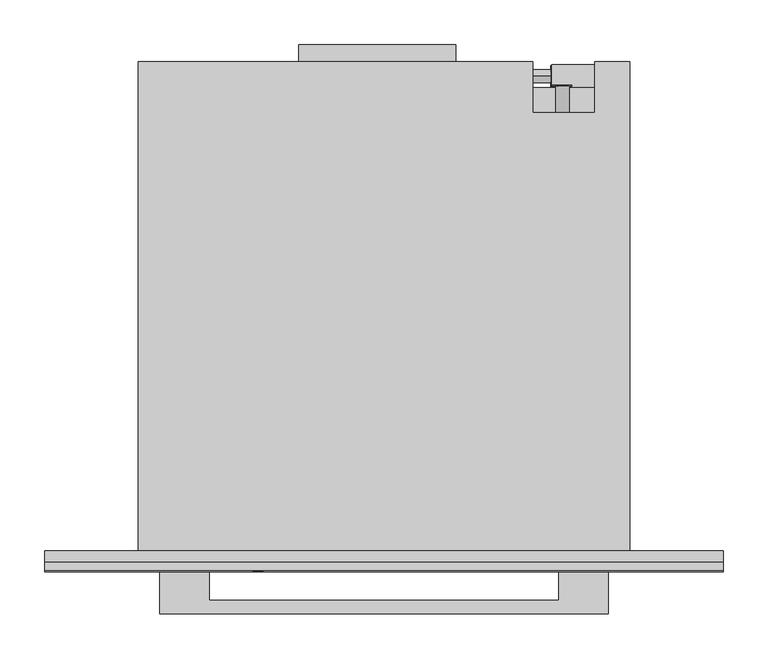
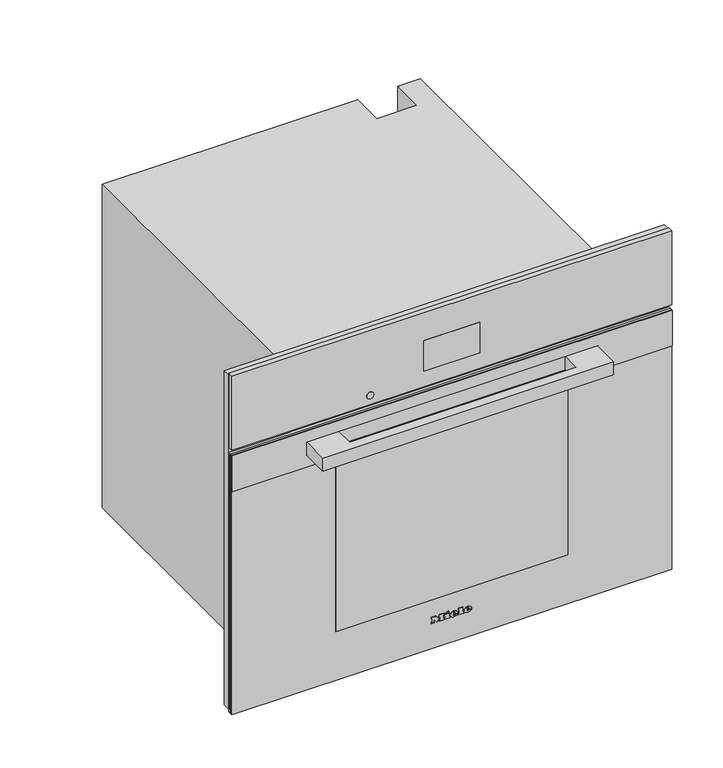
"""IFC4 building model written with IfcOpenShell, lengths in millimetres: proxy geometry, 11876450_USA_DGC7685_EDST-CLST : 23768543_USA_11876450_DGC7685_EDST-CLST."""

from ifc_helpers import new_model, si_unit, point, frame, frame_2d, origin, place, context, project, spatial, polyline, circle_curve, ellipse_curve, trimmed, segment, composite_curve, outline, extrude, faceted_brep, source, transform, mapped, element, save
from ifc_brep_helpers import plane_surface, cylinder_surface, revolved_surface, extruded_surface, advanced_brep


def specialty_equipment_a1b92951(model_context):
    return source(origin(), model_context, "Body", "SolidModel", [
        faceted_brep([(378.5, -13.0, 617.0), (-378.5, -13.0, 617.0), (-378.5, -13.0, 9.0), (-272.5, -13.0, 9.0), (-272.5, -13.0, 485.0), (272.5, -13.0, 485.0), (272.5, -13.0, 9.0), (378.5, -13.0, 9.0), (378.5, 0.0, 617.0), (378.5, 0.0, 9.0), (-378.5, 0.0, 9.0), (-378.5, 0.0, 617.0), (231.0, 0.0, 61.0), (231.0, 0.0, 411.0), (-231.0, 0.0, 411.0), (-231.0, 0.0, 61.0), (272.5, -5.0, 9.0), (-272.5, -5.0, 9.0), (-272.5, -5.0, 485.0), (272.5, -5.0, 485.0), (231.0, -5.0, 411.0), (231.0, -5.0, 61.0), (-231.0, -5.0, 61.0), (-231.0, -5.0, 411.0)], [[[0, 1, 2, 3, 4, 5, 6, 7]], [[8, 9, 10, 11], [12, 13, 14, 15]], [[1, 0, 8, 11]], [[2, 1, 11, 10]], [[10, 9, 7, 6, 16, 17, 3, 2]], [[0, 7, 9, 8]], [[18, 19, 5, 4]], [[18, 4, 3, 17]], [[5, 19, 16, 6]], [[19, 18, 17, 16], [20, 21, 22, 23]], [[20, 13, 12, 21]], [[21, 12, 15, 22]], [[22, 15, 14, 23]], [[13, 20, 23, 14]]]),
        extrude(outline(polyline([(-95.0, 565.0), (80.0, 565.0), (80.0, 546.0), (-95.0, 546.0), (-95.0, 565.0)])), frame((0.0, 0.0, 311.0), z_axis=(0.0, 0.0, 1.0), x_axis=(1.0, 0.0, 0.0)), (0.0, 0.0, 1.0), 1.0),
        extrude(outline(polyline([(218.8383288, 522.0), (225.1236409, 522.0), (225.1236409, 511.9492425), (223.8571792, 511.9492425), (223.8571792, 520.7409796), (218.8383288, 520.7409796), (218.8383288, 522.0)])), frame((0.0, 0.0, 272.0), z_axis=(0.0, 0.0, 1.0), x_axis=(1.0, 0.0, 0.0)), (0.0, 0.0, 1.0), 1.0),
        extrude(outline(polyline([(227.0, 522.0), (234.3797826, 522.0), (234.3797826, 511.9503529), (227.15422, 511.9503529), (227.15422, 513.220938), (233.1355215, 513.220938), (233.1355215, 516.1975645), (227.4863097, 516.1975645), (227.4863097, 517.449242), (233.1355215, 517.449242), (233.1355215, 520.7448633), (227.0, 520.7448633), (227.0, 522.0)])), frame((0.0, 0.0, 272.0), z_axis=(0.0, 0.0, 1.0), x_axis=(1.0, 0.0, 0.0)), (0.0, 0.0, 1.0), 1.0),
        extrude(outline(polyline([(519.6429442, 19.9943805), (518.3113439, 19.9943805), (522.3179353, 30.0448542), (523.3959224, 30.0448542), (527.4062166, 20.0), (526.0536081, 20.0), (524.9175759, 23.121223), (520.7810217, 23.121223), (519.6429442, 19.9943805)]), holes=[polyline([(521.2587176, 24.4336815), (524.43988, 24.4336815), (522.8492988, 28.8037675), (521.2587176, 24.4336815)])]), frame((186.0, 0.0, 0.0), z_axis=(1.0, 0.0, 0.0), x_axis=(0.0, 1.0, 0.0)), (0.0, 0.0, 1.0), 1.0),
        extrude(outline(polyline([(530.5321321, 20.0), (527.8018067, 30.0490432), (529.0968223, 30.0490432), (531.1602937, 21.4201336), (533.686646, 30.0556718), (535.5455392, 30.0556718), (538.1024658, 21.4662572), (540.1658975, 30.0556718), (541.4634812, 30.0556718), (538.7128319, 20.0), (537.3799359, 20.0), (534.6350025, 28.8403806), (532.048723, 20.0), (530.5321321, 20.0)])), frame((186.0, 0.0, 0.0), z_axis=(1.0, 0.0, 0.0), x_axis=(0.0, 1.0, 0.0)), (0.0, 0.0, 1.0), 1.0),
        extrude(outline(composite_curve([segment(trimmed(circle_curve(frame_2d((227.0, 517.0)), 7.5), [point((219.5, 517.0))], [point((234.5, 517.0))], False, "CARTESIAN"), True, "CONTINUOUS"), segment(trimmed(circle_curve(frame_2d((227.0, 517.0)), 7.5), [point((234.5, 517.0))], [point((219.5, 517.0))], False, "CARTESIAN"), True, "CONTINUOUS")], self_intersect=False)), frame((0.0, 0.0, 273.0), z_axis=(0.0, 0.0, 1.0), x_axis=(1.0, 0.0, 0.0)), (0.0, 0.0, 1.0), 30.0),
        extrude(outline(polyline([(266.0, 517.0), (187.0, 517.0), (187.0, 543.0), (266.0, 543.0), (266.0, 517.0)])), frame((0.0, 0.0, 303.0), z_axis=(0.0, 0.0, 1.0), x_axis=(1.0, 0.0, 0.0)), (0.0, 0.0, 1.0), 111.0),
        extrude(outline(polyline([(523.0, 196.9217896), (523.0, 198.4267862), (533.0435673, 201.1942402), (533.0435673, 199.9014806), (524.4295103, 197.7797951), (533.0470645, 195.3087512), (533.0470645, 193.4373937), (524.4121052, 190.9191482), (533.0472266, 188.8443938), (533.0472266, 187.5376524), (523.0, 190.2769667), (523.0, 191.6257455), (531.8347238, 194.3884733), (523.0, 196.9217896)])), frame((0.0, 519.0, 0.0), z_axis=(0.0, 1.0, 0.0), x_axis=(0.0, 0.0, 1.0)), (0.0, 0.0, 1.0), 1.0),
        extrude(outline(polyline([(533.0468463, 209.521488), (533.0468463, 208.2566067), (528.129594, 208.2566067), (533.0474898, 203.1074328), (533.0474898, 201.3597489), (528.9313111, 205.6695027), (523.0, 201.1858157), (523.0, 202.7358731), (528.0700777, 206.5685235), (526.4282746, 208.2823622), (523.0, 208.2823622), (523.0, 209.521488), (533.0468463, 209.521488)])), frame((0.0, 519.0, 0.0), z_axis=(0.0, 1.0, 0.0), x_axis=(0.0, 0.0, 1.0)), (0.0, 0.0, 1.0), 1.0),
        extrude(outline(composite_curve([segment(trimmed(circle_curve(frame_2d((528.0, 199.0)), 7.5), [point((528.0, 206.5))], [point((528.0, 191.5))], False, "CARTESIAN"), True, "CONTINUOUS"), segment(trimmed(circle_curve(frame_2d((528.0, 199.0)), 7.5), [point((528.0, 191.5))], [point((528.0, 206.5))], False, "CARTESIAN"), True, "CONTINUOUS")], self_intersect=False)), frame((0.0, 489.0, 0.0), z_axis=(0.0, 1.0, 0.0), x_axis=(0.0, 0.0, 1.0)), (0.0, 0.0, 1.0), 30.0),
        extrude(outline(composite_curve([segment(trimmed(circle_curve(frame_2d((530.0, 25.0)), 7.5), [point((530.0, 17.5))], [point((530.0, 32.5))], False, "CARTESIAN"), True, "CONTINUOUS"), segment(trimmed(circle_curve(frame_2d((530.0, 25.0)), 7.5), [point((530.0, 32.5))], [point((530.0, 17.5))], False, "CARTESIAN"), True, "CONTINUOUS")], self_intersect=False)), frame((166.0, 0.0, 0.0), z_axis=(1.0, 0.0, 0.0), x_axis=(0.0, 1.0, 0.0)), (0.0, 0.0, 1.0), 20.0),
        faceted_brep([(-274.0, 546.0, 0.0), (-274.0, 546.0, 588.0), (166.0, 546.0, 588.0), (166.0, 546.0, 0.0), (235.0, 546.0, 588.0), (274.0, 546.0, 588.0), (274.0, 546.0, 478.0), (235.0, 546.0, 478.0), (274.0, 0.0, 588.0), (-274.0, 0.0, 588.0), (-274.0, 0.0, 0.0), (274.0, 0.0, 0.0), (231.0, 0.0, 411.0), (231.0, 0.0, 61.0), (-231.0, 0.0, 61.0), (-231.0, 0.0, 411.0), (235.0, 489.0, 588.0), (166.0, 489.0, 588.0), (166.0, 517.0, 0.0), (274.0, 517.0, 0.0), (274.0, 517.0, 478.0), (231.0, 411.0, 411.0), (-231.0, 411.0, 411.0), (-231.0, 411.0, 61.0), (231.0, 411.0, 61.0), (235.0, 489.0, 477.0), (166.0, 489.0, 477.0), (166.0, 517.0, 477.0), (235.0, 517.0, 477.0), (235.0, 517.0, 478.0)], [[[0, 1, 2, 3]], [[4, 5, 6, 7]], [[8, 9, 10, 11], [12, 13, 14, 15]], [[9, 8, 5, 4, 16, 17, 2, 1]], [[1, 0, 10, 9]], [[11, 10, 0, 3, 18, 19]], [[8, 11, 19, 20, 6, 5]], [[21, 22, 23, 24]], [[21, 24, 13, 12]], [[24, 23, 14, 13]], [[23, 22, 15, 14]], [[22, 21, 12, 15]], [[16, 25, 26, 17]], [[17, 26, 27, 18, 3, 2]], [[26, 25, 28, 27]], [[25, 16, 4, 7, 29, 28]], [[29, 20, 19, 18, 27, 28]], [[20, 29, 7, 6]]]),
        advanced_brep(
        [(26.2998, -23.0, 52.7018), (26.2998, -23.0, 53.8532), (33.9264, -23.0, 53.8532), (20.6568, -23.0, 53.8532), (23.7918, -23.0, 50.0), (33.7326, -23.0, 52.7018), (30.2898, -23.0, 52.7018), (27.5766, -23.0, 51.425), (26.2998, -23.0, 55.3124), (26.2998, -23.0, 56.555), (28.2492, -23.0, 56.555), (28.2492, -23.0, 55.3124), (26.2998, -22.0, 52.7018), (27.5766, -22.0, 51.425), (30.2898, -22.0, 52.7018), (33.7326, -22.0, 52.7018), (23.7918, -22.0, 50.0), (20.6568, -22.0, 53.8532), (33.9264, -22.0, 53.8532), (26.2998, -22.0, 53.8532), (26.2998, -22.0, 55.3124), (28.2492, -22.0, 55.3124), (28.2492, -22.0, 56.555), (26.2998, -22.0, 56.555)],
        [
            (0, 1),
            (1, 2),
            (2, 3, ellipse_curve(frame((27.2916, -23.0, 53.8532), z_axis=(0.0, -1.0, 0.0), x_axis=(-1.0, 0.0, 0.0)), 6.6348, 5.4834)),
            (3, 4, circle_curve(frame((25.0686622, -23.0, 54.2408), z_axis=(0.0, -1.0, 0.0), x_axis=(0.0, 0.0, -1.0)), 4.4288556)),
            (4, 5, circle_curve(frame((27.1587808, -23.0, 57.2504), z_axis=(0.0, -1.0, 0.0), x_axis=(0.0, 0.0, -1.0)), 7.9940516)),
            (5, 6),
            (6, 7, circle_curve(frame((28.1338588, -23.0, 53.762), z_axis=(0.0, 1.0, 0.0), x_axis=(0.0, 0.0, -1.0)), 2.4025208)),
            (7, 0, circle_curve(frame((27.5766, -23.0, 52.7018), z_axis=(0.0, 1.0, 0.0), x_axis=(0.0, 0.0, -1.0)), 1.2768)),
            (8, 9),
            (9, 10, circle_curve(frame((27.2745, -23.0, 56.555), z_axis=(0.0, 1.0, 0.0), x_axis=(0.0, 0.0, -1.0)), 0.9747)),
            (10, 11),
            (11, 8),
            (12, 13, circle_curve(frame((27.5766, -22.0, 52.7018), z_axis=(0.0, -1.0, 0.0), x_axis=(0.0, 0.0, -1.0)), 1.2768)),
            (13, 14, circle_curve(frame((28.1338588, -22.0, 53.762), z_axis=(0.0, -1.0, 0.0), x_axis=(0.0, 0.0, -1.0)), 2.4025208)),
            (14, 15),
            (15, 16, circle_curve(frame((27.1587808, -22.0, 57.2504), z_axis=(0.0, 1.0, 0.0), x_axis=(0.0, 0.0, -1.0)), 7.9940516)),
            (16, 17, circle_curve(frame((25.0686622, -22.0, 54.2408), z_axis=(0.0, 1.0, 0.0), x_axis=(0.0, 0.0, -1.0)), 4.4288556)),
            (17, 18, ellipse_curve(frame((27.2916, -22.0, 53.8532), z_axis=(0.0, 1.0, 0.0), x_axis=(-1.0, 0.0, 0.0)), 6.6348, 5.4834)),
            (18, 19),
            (19, 12),
            (20, 21),
            (21, 22),
            (22, 23, circle_curve(frame((27.2745, -22.0, 56.555), z_axis=(0.0, -1.0, 0.0), x_axis=(0.0, 0.0, -1.0)), 0.9747)),
            (23, 20),
            (0, 12),
            (19, 1),
            (18, 2),
            (5, 15),
            (14, 6),
            (17, 3),
            (13, 7),
            (16, 4),
            (8, 20),
            (23, 9),
            (22, 10),
            (21, 11),
        ],
        [
            plane_surface(frame((26.2998, -23.0, 53.8532), z_axis=(0.0, -1.0, 0.0), x_axis=(0.0, 0.0, 1.0))),
            plane_surface(frame((26.2998, -22.0, 53.8532), z_axis=(0.0, 1.0, 0.0), x_axis=(0.0, 0.0, -1.0))),
            plane_surface(frame((26.2998, -23.0, 52.7018), z_axis=(1.0, 0.0, 0.0), x_axis=(0.0, 1.0, 0.0))),
            plane_surface(frame((26.2998, -23.0, 53.8532), z_axis=(0.0, 0.0, -1.0), x_axis=(0.0, 1.0, 0.0))),
            plane_surface(frame((33.7326, -23.0, 52.7018), z_axis=(0.0, 0.0, 1.0), x_axis=(0.0, 1.0, 0.0))),
            extruded_surface(trimmed(ellipse_curve(frame((27.2916, -21.0, 53.8532), z_axis=(0.0, -1.0, 0.0), x_axis=(-1.0, 0.0, 0.0)), 6.6348, 5.4834), [point((33.9264, -21.0, 53.8532))], [point((20.6568, -21.0, 53.8532))], True, "CARTESIAN"), (0.0, -1.0, 0.0), 1.0),
            revolved_surface(polyline([(28.1338588, -22.0, 51.3594792), (28.1338588, -23.0, 51.3594792)]), (28.1338588, -22.0, 53.762), (0.0, 1.0, 0.0)),
            revolved_surface(polyline([(27.5766, -22.0, 51.425), (27.5766, -23.0, 51.425)]), (27.5766, -22.0, 52.7018), (0.0, 1.0, 0.0)),
            cylinder_surface(frame((25.0686622, -22.0, 54.2408), z_axis=(0.0, -1.0, 0.0), x_axis=(0.0, 0.0, -1.0)), 4.4288556),
            cylinder_surface(frame((27.1587808, -22.0, 57.2504), z_axis=(0.0, -1.0, 0.0), x_axis=(0.0, 0.0, -1.0)), 7.9940516),
            plane_surface(frame((26.2998, -23.0, 55.3124), z_axis=(1.0, 0.0, 0.0), x_axis=(0.0, 1.0, 0.0))),
            revolved_surface(polyline([(27.2745, -22.0, 55.5803), (27.2745, -23.0, 55.5803)]), (27.2745, -22.0, 56.555), (0.0, 1.0, 0.0)),
            plane_surface(frame((28.2492, -23.0, 56.555), z_axis=(-1.0, 0.0, 0.0), x_axis=(0.0, 1.0, 0.0))),
            plane_surface(frame((28.2492, -23.0, 55.3124), z_axis=(0.0, 0.0, 1.0), x_axis=(0.0, 1.0, 0.0))),
        ],
        [
            (0, [[1, 2, 3, 4, 5, 6, 7, 8], [9, 10, 11, 12]]),
            (1, [[13, 14, 15, 16, 17, 18, 19, 20], [21, 22, 23, 24]]),
            (2, [[-1, 25, -20, 26]]),
            (3, [[-2, -26, -19, 27]]),
            (4, [[-6, 28, -15, 29]]),
            (5, [[-3, -27, -18, 30]]),
            (6, [[-7, -29, -14, 31]]),
            (7, [[-8, -31, -13, -25]]),
            (8, [[-4, -30, -17, 32]]),
            (9, [[-5, -32, -16, -28]]),
            (10, [[-9, 33, -24, 34]]),
            (11, [[-10, -34, -23, 35]]),
            (12, [[-11, -35, -22, 36]]),
            (13, [[-12, -36, -21, -33]]),
        ],
    ),
        advanced_brep(
        [(2.508, -23.0, 52.7018), (2.508, -23.0, 53.8532), (10.1346, -23.0, 53.8532), (-3.135, -23.0, 53.8532), (0.0, -23.0, 50.0), (9.9408, -23.0, 52.7018), (6.498, -23.0, 52.7018), (3.7848, -23.0, 51.425), (2.508, -23.0, 55.3124), (2.508, -23.0, 56.555), (4.4574, -23.0, 56.555), (4.4574, -23.0, 55.3124), (2.508, -22.0, 52.7018), (3.7848, -22.0, 51.425), (6.498, -22.0, 52.7018), (9.9408, -22.0, 52.7018), (0.0, -22.0, 50.0), (-3.135, -22.0, 53.8532), (10.1346, -22.0, 53.8532), (2.508, -22.0, 53.8532), (2.508, -22.0, 55.3124), (4.4574, -22.0, 55.3124), (4.4574, -22.0, 56.555), (2.508, -22.0, 56.555)],
        [
            (0, 1),
            (1, 2),
            (2, 3, ellipse_curve(frame((3.4998, -23.0, 53.8532), z_axis=(0.0, -1.0, 0.0), x_axis=(-1.0, 0.0, 0.0)), 6.6348, 5.4834)),
            (3, 4, circle_curve(frame((1.2768622, -23.0, 54.2408), z_axis=(0.0, -1.0, 0.0), x_axis=(0.0, 0.0, -1.0)), 4.4288556)),
            (4, 5, circle_curve(frame((3.3669808, -23.0, 57.2504), z_axis=(0.0, -1.0, 0.0), x_axis=(0.0, 0.0, -1.0)), 7.9940516)),
            (5, 6),
            (6, 7, circle_curve(frame((4.3420588, -23.0, 53.762), z_axis=(0.0, 1.0, 0.0), x_axis=(0.0, 0.0, -1.0)), 2.4025208)),
            (7, 0, circle_curve(frame((3.7848, -23.0, 52.7018), z_axis=(0.0, 1.0, 0.0), x_axis=(0.0, 0.0, -1.0)), 1.2768)),
            (8, 9),
            (9, 10, circle_curve(frame((3.4827, -23.0, 56.555), z_axis=(0.0, 1.0, 0.0), x_axis=(0.0, 0.0, -1.0)), 0.9747)),
            (10, 11),
            (11, 8),
            (12, 13, circle_curve(frame((3.7848, -22.0, 52.7018), z_axis=(0.0, -1.0, 0.0), x_axis=(0.0, 0.0, -1.0)), 1.2768)),
            (13, 14, circle_curve(frame((4.3420588, -22.0, 53.762), z_axis=(0.0, -1.0, 0.0), x_axis=(0.0, 0.0, -1.0)), 2.4025208)),
            (14, 15),
            (15, 16, circle_curve(frame((3.3669808, -22.0, 57.2504), z_axis=(0.0, 1.0, 0.0), x_axis=(0.0, 0.0, -1.0)), 7.9940516)),
            (16, 17, circle_curve(frame((1.2768622, -22.0, 54.2408), z_axis=(0.0, 1.0, 0.0), x_axis=(0.0, 0.0, -1.0)), 4.4288556)),
            (17, 18, ellipse_curve(frame((3.4998, -22.0, 53.8532), z_axis=(0.0, 1.0, 0.0), x_axis=(-1.0, 0.0, 0.0)), 6.6348, 5.4834)),
            (18, 19),
            (19, 12),
            (20, 21),
            (21, 22),
            (22, 23, circle_curve(frame((3.4827, -22.0, 56.555), z_axis=(0.0, -1.0, 0.0), x_axis=(0.0, 0.0, -1.0)), 0.9747)),
            (23, 20),
            (0, 12),
            (19, 1),
            (18, 2),
            (5, 15),
            (14, 6),
            (17, 3),
            (13, 7),
            (16, 4),
            (8, 20),
            (23, 9),
            (22, 10),
            (21, 11),
        ],
        [
            plane_surface(frame((2.508, -23.0, 53.8532), z_axis=(0.0, -1.0, 0.0), x_axis=(0.0, 0.0, 1.0))),
            plane_surface(frame((2.508, -22.0, 53.8532), z_axis=(0.0, 1.0, 0.0), x_axis=(0.0, 0.0, -1.0))),
            plane_surface(frame((2.508, -23.0, 52.7018), z_axis=(1.0, 0.0, 0.0), x_axis=(0.0, 1.0, 0.0))),
            plane_surface(frame((2.508, -23.0, 53.8532), z_axis=(0.0, 0.0, -1.0), x_axis=(0.0, 1.0, 0.0))),
            plane_surface(frame((9.9408, -23.0, 52.7018), z_axis=(0.0, 0.0, 1.0), x_axis=(0.0, 1.0, 0.0))),
            extruded_surface(trimmed(ellipse_curve(frame((3.4998, -21.0, 53.8532), z_axis=(0.0, -1.0, 0.0), x_axis=(-1.0, 0.0, 0.0)), 6.6348, 5.4834), [point((10.1346, -21.0, 53.8532))], [point((-3.135, -21.0, 53.8532))], True, "CARTESIAN"), (0.0, -1.0, 0.0), 1.0),
            revolved_surface(polyline([(4.3420588, -22.0, 51.3594792), (4.3420588, -23.0, 51.3594792)]), (4.3420588, -22.0, 53.762), (0.0, 1.0, 0.0)),
            revolved_surface(polyline([(3.7848, -22.0, 51.425), (3.7848, -23.0, 51.425)]), (3.7848, -22.0, 52.7018), (0.0, 1.0, 0.0)),
            cylinder_surface(frame((1.2768622, -22.0, 54.2408), z_axis=(0.0, -1.0, 0.0), x_axis=(0.0, 0.0, -1.0)), 4.4288556),
            cylinder_surface(frame((3.3669808, -22.0, 57.2504), z_axis=(0.0, -1.0, 0.0), x_axis=(0.0, 0.0, -1.0)), 7.9940516),
            plane_surface(frame((2.508, -23.0, 55.3124), z_axis=(1.0, 0.0, 0.0), x_axis=(0.0, 1.0, 0.0))),
            revolved_surface(polyline([(3.4827, -22.0, 55.5803), (3.4827, -23.0, 55.5803)]), (3.4827, -22.0, 56.555), (0.0, 1.0, 0.0)),
            plane_surface(frame((4.4574, -23.0, 56.555), z_axis=(-1.0, 0.0, 0.0), x_axis=(0.0, 1.0, 0.0))),
            plane_surface(frame((4.4574, -23.0, 55.3124), z_axis=(0.0, 0.0, 1.0), x_axis=(0.0, 1.0, 0.0))),
        ],
        [
            (0, [[1, 2, 3, 4, 5, 6, 7, 8], [9, 10, 11, 12]]),
            (1, [[13, 14, 15, 16, 17, 18, 19, 20], [21, 22, 23, 24]]),
            (2, [[-1, 25, -20, 26]]),
            (3, [[-2, -26, -19, 27]]),
            (4, [[-6, 28, -15, 29]]),
            (5, [[-3, -27, -18, 30]]),
            (6, [[-7, -29, -14, 31]]),
            (7, [[-8, -31, -13, -25]]),
            (8, [[-4, -30, -17, 32]]),
            (9, [[-5, -32, -16, -28]]),
            (10, [[-9, 33, -24, 34]]),
            (11, [[-10, -34, -23, 35]]),
            (12, [[-11, -35, -22, 36]]),
            (13, [[-12, -36, -21, -33]]),
        ],
    ),
        extrude(outline(polyline([(60.7274, -9.9522), (58.8806, -9.0858), (60.6818, -5.2212), (62.5286, -6.0762), (60.7274, -9.9522)])), frame((0.0, -23.0, 0.0), z_axis=(0.0, 1.0, 0.0), x_axis=(0.0, 0.0, 1.0)), (0.0, 0.0, 1.0), 1.0),
        extrude(outline(polyline([(58.6298, -12.768), (56.5892, -12.768), (56.5892, -11.4114), (51.9152, -11.4114), (51.9152, -12.768), (50.0, -12.768), (50.0, -3.7734), (51.9152, -3.7734), (51.9152, -5.0958), (58.6298, -5.0958), (58.6298, -12.768)])), frame((0.0, -23.0, 0.0), z_axis=(0.0, 1.0, 0.0), x_axis=(0.0, 0.0, 1.0)), (0.0, 0.0, 1.0), 1.0),
        extrude(outline(polyline([(59.5418, 10.773), (59.5418, 12.141), (51.9152, 12.141), (51.9152, 10.773), (50.0, 10.773), (50.0, 20.0184), (51.9152, 20.0184), (51.9152, 18.6162), (61.4, 18.6162), (61.4, 10.773), (59.5418, 10.773)])), frame((0.0, -23.0, 0.0), z_axis=(0.0, 1.0, 0.0), x_axis=(0.0, 0.0, 1.0)), (0.0, 0.0, 1.0), 1.0),
        extrude(outline(polyline([(59.5418, -35.4882), (59.5418, -34.1088), (51.9152, -34.1088), (51.9152, -35.4882), (50.0, -35.4882), (50.0, -30.4722), (51.9152, -30.4722), (51.9152, -31.8402), (56.7429247, -31.8402), (50.0, -26.7444), (56.9402223, -21.6258), (51.9152, -21.6258), (51.9152, -23.028), (50.0, -23.028), (50.0, -13.9308), (51.9152, -13.9308), (51.9152, -15.3786), (59.5418, -15.3786), (59.5418, -13.9308), (61.4, -13.9308), (61.4, -20.8734), (57.125, -24.2022), (61.4, -27.5424), (61.4, -35.4882), (59.5418, -35.4882)])), frame((0.0, -23.0, 0.0), z_axis=(0.0, 1.0, 0.0), x_axis=(0.0, 0.0, 1.0)), (0.0, 0.0, 1.0), 1.0),
        extrude(outline(composite_curve([segment(trimmed(circle_curve(frame_2d((502.0, -140.5745637)), 6.0), [point((502.0, -146.5745637))], [point((502.0, -134.5745637))], False, "CARTESIAN"), True, "CONTINUOUS"), segment(trimmed(circle_curve(frame_2d((502.0, -140.5745637)), 6.0), [point((502.0, -134.5745637))], [point((502.0, -146.5745637))], False, "CARTESIAN"), True, "CONTINUOUS")], self_intersect=False)), frame((0.0, -22.5, 0.0), z_axis=(0.0, 1.0, 0.0), x_axis=(0.0, 0.0, 1.0)), (0.0, 0.0, 1.0), 1.0),
        extrude(outline(polyline([(-48.0, -21.0), (48.0, -21.0), (48.0, -22.0), (-48.0, -22.0), (-48.0, -21.0)])), frame((0.0, 0.0, 513.0), z_axis=(0.0, 0.0, 1.0), x_axis=(1.0, 0.0, 0.0)), (0.0, 0.0, 1.0), 56.0),
        faceted_brep([(378.5, -22.0, 620.0), (-378.5, -22.0, 620.0), (-378.5, -22.0, 485.0), (378.5, -22.0, 485.0), (48.0, -22.0, 569.0), (48.0, -22.0, 513.0), (-48.0, -22.0, 513.0), (-48.0, -22.0, 569.0), (378.5, -13.0, 620.0), (378.5, -13.0, 485.0), (-378.5, -13.0, 485.0), (-378.5, -13.0, 620.0), (48.0, -21.0, 569.0), (-48.0, -21.0, 569.0), (-48.0, -21.0, 513.0), (48.0, -21.0, 513.0)], [[[0, 1, 2, 3], [4, 5, 6, 7]], [[8, 9, 10, 11]], [[1, 0, 8, 11]], [[2, 1, 11, 10]], [[3, 2, 10, 9]], [[0, 3, 9, 8]], [[12, 13, 14, 15]], [[12, 15, 5, 4]], [[15, 14, 6, 5]], [[14, 13, 7, 6]], [[13, 12, 4, 7]]]),
        extrude(outline(polyline([(200.0, -22.0), (-200.0, -22.0), (-200.0, -18.0), (200.0, -18.0), (200.0, -22.0)])), frame((0.0, 0.0, 92.5), z_axis=(0.0, 0.0, 1.0), x_axis=(1.0, 0.0, 0.0)), (0.0, 0.0, 1.0), 300.0),
        extrude(outline(polyline([(476.0, 378.5), (476.0, -378.5), (4.0, -378.5), (4.0, 378.5), (476.0, 378.5)]), holes=[polyline([(392.5, -200.0), (392.5, 200.0), (92.5, 200.0), (92.5, -200.0), (392.5, -200.0)])]), frame((0.0, -22.0, 0.0), z_axis=(0.0, 1.0, 0.0), x_axis=(0.0, 0.0, 1.0)), (0.0, 0.0, 1.0), 4.0),
        extrude(outline(polyline([(476.0, 378.5), (476.0, -378.5), (411.0, -378.5), (411.0, 378.5), (476.0, 378.5)]), holes=[polyline([(456.0, -250.5), (456.0, 250.5), (431.0, 250.5), (431.0, -250.5), (456.0, -250.5)])]), frame((0.0, -23.3, 0.0), z_axis=(0.0, 1.0, 0.0), x_axis=(0.0, 0.0, 1.0)), (0.0, 0.0, 1.0), 1.3),
        extrude(outline(polyline([(-250.0, -70.3), (-250.0, -22.0), (-195.0, -22.0), (-195.0, -55.3), (195.0, -55.3), (195.0, -22.0), (250.0, -22.0), (250.0, -70.3), (-250.0, -70.3)])), frame((0.0, 0.0, 431.5), z_axis=(0.0, 0.0, 1.0), x_axis=(1.0, 0.0, 0.0)), (0.0, 0.0, 1.0), 24.0),
        extrude(outline(polyline([(378.5, -18.0), (-378.5, -18.0), (-378.5, -13.0), (378.5, -13.0), (378.5, -18.0)])), frame((0.0, 0.0, 4.0), z_axis=(0.0, 0.0, 1.0), x_axis=(1.0, 0.0, 0.0)), (0.0, 0.0, 1.0), 472.0),
    ])


if __name__ == "__main__":
    model = new_model("IFC4")
    model_context = context("Model", 3, world=origin())
    ifc_project = project(units=[si_unit("LENGTHUNIT", "METRE", prefix="MILLI")], contexts=[model_context])
    site = spatial("IfcSite", under=ifc_project)
    building = spatial("IfcBuilding", under=site)
    placement = place(None, origin())
    specialty_equipment_shape = specialty_equipment_a1b92951(model_context)
    element("IfcBuildingElementProxy", 1, Name="11876450_USA_DGC7685_EDST-CLST : 23768543_USA_11876450_DGC7685_EDST-CLST", ObjectType="11876450_USA_DGC7685_EDST-CLST : 23768543_USA_11876450_DGC7685_EDST-CLST", at=placement, inside=building, context=model_context, shape_type="MappedRepresentation", body=[
        mapped(specialty_equipment_shape, transform((0.0, 0.0, 0.0), x_axis=(1.0, 0.0, 0.0), y_axis=(0.0, 1.0, 0.0), z_axis=(0.0, 0.0, 1.0))),
    ])
    save(model, "model.ifc")
